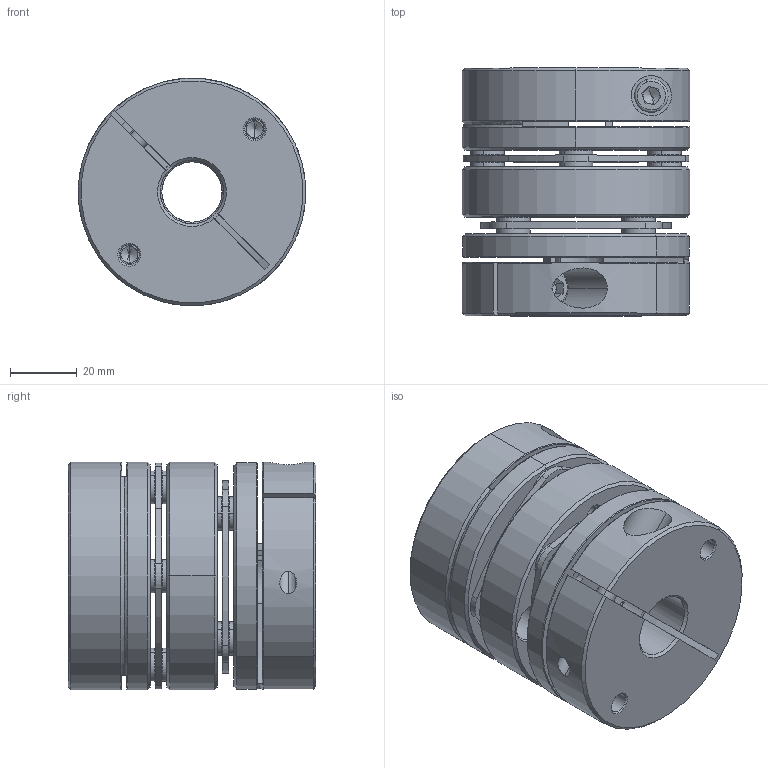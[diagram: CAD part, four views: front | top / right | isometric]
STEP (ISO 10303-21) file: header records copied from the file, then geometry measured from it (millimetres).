
FILE_DESCRIPTION (( 'STEP AP203' ), '1' );
FILE_NAME ('LD2-D68-18-19.STEP', '2021-10-26T08:23:32', ( '' ), ( '' ), 'SwSTEP 2.0', 'SolidWorks 2018', '' );
FILE_SCHEMA (( 'CONFIG_CONTROL_DESIGN' ));
Length unit declared in the file: millimetre
Products named in the file (2): LD2-D68-18-19; 錨璃102^LD2-D68
Assembly tree (1 placements, depth 2):
  LD2-D68-18-19
    錨璃102^LD2-D68
Bounding box: 68 x 74 x 68 mm (x, y, z)
Volume: 191800.9 mm3; surface area: 64886 mm2
Topology: 1 solids, 27 shells, 740 faces, 1720 edges, 1048 vertices
Faces by surface type: cylinder 260, cone 226, plane 224, torus 30
Entity records: 21674 total; most frequent: DIRECTION 4030, CARTESIAN_POINT 3954, ORIENTED_EDGE 3392, EDGE_CURVE 1696, AXIS2_PLACEMENT_3D 1636, VERTEX_POINT 1048, CIRCLE 892, EDGE_LOOP 876
